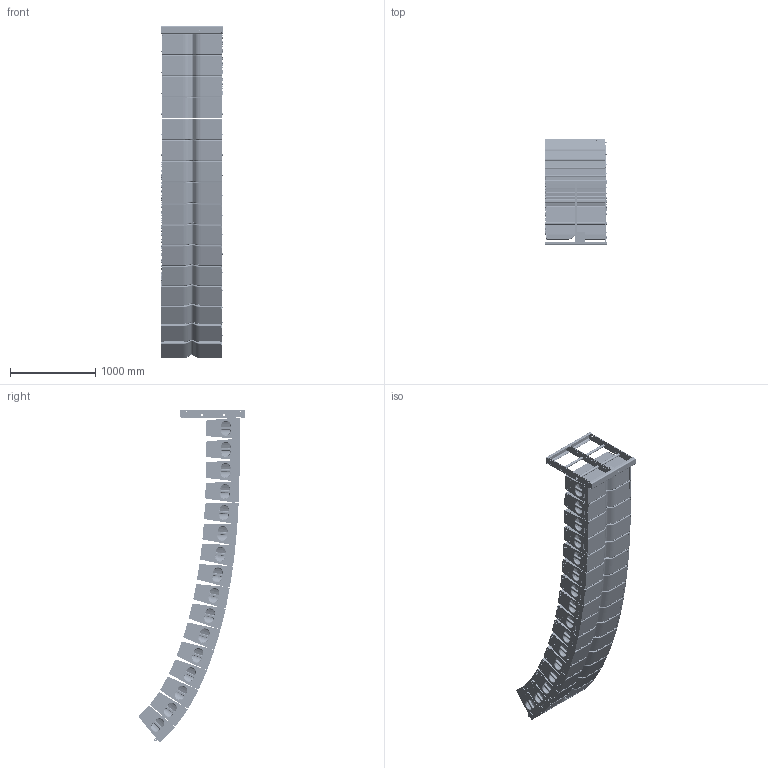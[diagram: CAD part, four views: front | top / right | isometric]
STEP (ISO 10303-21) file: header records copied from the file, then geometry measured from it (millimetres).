
FILE_DESCRIPTION(/* description */ (''),/* implementation_level */ '2;1');
FILE_NAME(/* name */ 'LA28 16 Box ARRAY v5.step',/* time_stamp */ '2023-01-22T00:31:20-08:00',/* author */ (''),/* organization */ (''),/* preprocessor_version */ 'ST-DEVELOPER v19.2',/* originating_system */ 'Autodesk Translation Framework v11.17.0.187',/* authorisation */ '');
FILE_SCHEMA (('AUTOMOTIVE_DESIGN { 1 0 10303 214 3 1 1 }'));
Length unit declared in the file: inch
Products named in the file (10): LA28 16 Box ARRAY; LA28 RF1 Sheet Metal Assembly; LA28RF1 Front Rear C Channel^la28RF1 SHEET METAL ASSEMBLY; LA28RF1 Center Bar^la28RF1 SHEET METAL ASSEMBLY; AL28RF1 Outer Bar^la28RF1 SHEET METAL ASSEMBLY; Inclinometer Mount Plate^la28RF1 SHEET METAL ASSEMBLY; Stabilizing Tube^la28RF1 SHEET METAL ASSEMBLY; Rear Connection Arm^la28RF1 SHEET METAL ASSEMBLY; LA18 LA28 Front Connection Tongue^la28RF1 SHEET METAL ASSEMBLY; LA28 TOUR BLOCK
Assembly tree (32 placements, depth 3):
  LA28 16 Box ARRAY
    LA28 RF1 Sheet Metal Assembly
      LA28RF1 Front Rear C Channel^la28RF1 SHEET METAL ASSEMBLY  x2
      LA28RF1 Center Bar^la28RF1 SHEET METAL ASSEMBLY  x2
      AL28RF1 Outer Bar^la28RF1 SHEET METAL ASSEMBLY  x4
      Inclinometer Mount Plate^la28RF1 SHEET METAL ASSEMBLY
      Stabilizing Tube^la28RF1 SHEET METAL ASSEMBLY  x2
      Rear Connection Arm^la28RF1 SHEET METAL ASSEMBLY  x2
      LA18 LA28 Front Connection Tongue^la28RF1 SHEET METAL ASSEMBLY  x2
    LA28 TOUR BLOCK  x16
Bounding box: 728.79 x 1250.14 x 3888.7 mm (x, y, z)
Volume: 923410351.5 mm3; surface area: 21390787 mm2
Topology: 31 solids, 31 shells, 7297 faces, 17721 edges, 11398 vertices
Faces by surface type: plane 3206, cylinder 3131, torus 864, bspline 96
Full cylindrical faces by diameter (mm): 6.35 x4, 8.319 x96, 8.382 x906, 8.7 x32, 13 x224, 16.51 x52, 17 x192, 19.05 x2, 22.86 x2, 25.4 x8, 27.178 x2, 31.75 x2, 32.004 x12
Entity records: 22878 total; most frequent: CARTESIAN_POINT 4189, DIRECTION 3948, ORIENTED_EDGE 3624, EDGE_CURVE 1812, AXIS2_PLACEMENT_3D 1415, VERTEX_POINT 1168, LINE 1118, VECTOR 1118
